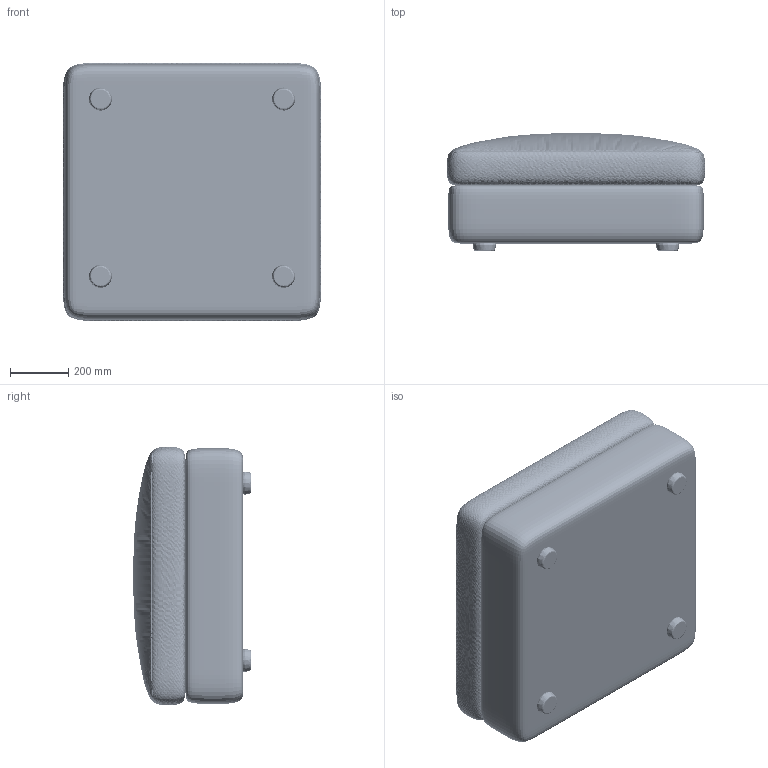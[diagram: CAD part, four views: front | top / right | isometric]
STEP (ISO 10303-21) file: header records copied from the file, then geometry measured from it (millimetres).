
FILE_DESCRIPTION(/* description */ (''),/* implementation_level */ '2;1');
FILE_NAME(/* name */ 'Ottoman Square, 88x88',/* time_stamp */ '2024-07-17T13:58:08+02:00',/* author */ (''),/* organization */ (''),/* preprocessor_version */ 'ST-DEVELOPER v19.2',/* originating_system */ 'Rhino 8.8',/* authorisation */ '');
FILE_SCHEMA (('CONFIG_CONTROL_DESIGN'));
Products named in the file (1): Document
Bounding box: 889.9 x 404.32 x 890.57 mm (x, y, z)
Volume: 268529218.2 mm3; surface area: 4086115.8 mm2
Topology: 6 solids, 6 shells, 44400 faces, 88788 edges, 44400 vertices
Faces by surface type: bspline 30621, plane 13779
Entity records: 963365 total; most frequent: CARTESIAN_POINT 358493, ORIENTED_EDGE 177576, EDGE_CURVE 88788, B_SPLINE_CURVE_WITH_KNOTS 88768, ADVANCED_FACE 44400, FACE_OUTER_BOUND 44400, EDGE_LOOP 44400, VERTEX_POINT 44400
